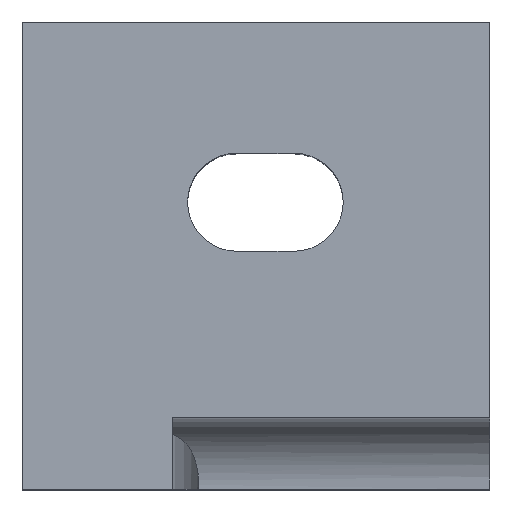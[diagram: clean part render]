
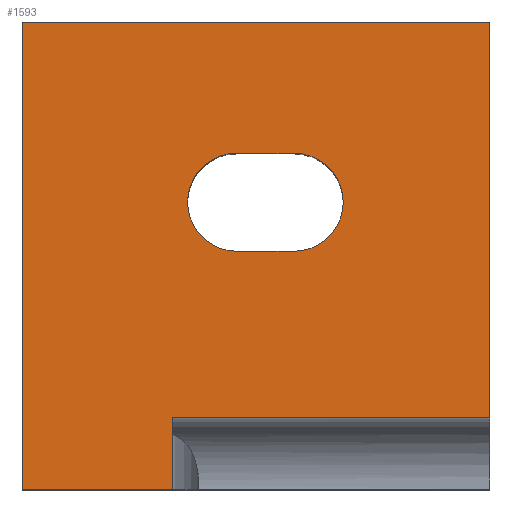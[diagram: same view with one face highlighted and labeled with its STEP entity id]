
A CAD part, top view. The second image highlights one B-rep face of the part: STEP entity #1593.
In plain terms, the highlighted planar face has unit normal (0, 0, 1).
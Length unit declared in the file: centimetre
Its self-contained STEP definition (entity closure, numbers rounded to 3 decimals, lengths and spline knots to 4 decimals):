
#11 = EDGE_CURVE ( 'NONE', #161, #498, #1489, .T. ) ;
#15 = VECTOR ( 'NONE', #1524, 100. ) ;
#60 = VERTEX_POINT ( 'NONE', #1479 ) ;
#66 = ORIENTED_EDGE ( 'NONE', *, *, #11, .T. ) ;
#99 = CARTESIAN_POINT ( 'NONE',  ( 1000., 1000., 1000. ) ) ;
#108 = LINE ( 'NONE', #1180, #878 ) ;
#109 = CARTESIAN_POINT ( 'NONE',  ( 1000., 1000., 1000. ) ) ;
#125 = LINE ( 'NONE', #109, #1510 ) ;
#143 = EDGE_CURVE ( 'NONE', #1541, #1535, #302, .T. ) ;
#152 = EDGE_CURVE ( 'NONE', #574, #161, #125, .T. ) ;
#161 = VERTEX_POINT ( 'NONE', #99 ) ;
#166 = ORIENTED_EDGE ( 'NONE', *, *, #332, .F. ) ;
#185 = ORIENTED_EDGE ( 'NONE', *, *, #1072, .T. ) ;
#190 = VERTEX_POINT ( 'NONE', #1202 ) ;
#263 = CARTESIAN_POINT ( 'NONE',  ( 458.4119, 719.2753, 1000. ) ) ;
#302 = CIRCLE ( 'NONE', #1424, 104.9442 ) ;
#314 = CARTESIAN_POINT ( 'NONE',  ( 0., 1000., 1000. ) ) ;
#315 = CARTESIAN_POINT ( 'NONE',  ( 0., 1000., 1000. ) ) ;
#321 = VERTEX_POINT ( 'NONE', #803 ) ;
#332 = EDGE_CURVE ( 'NONE', #574, #321, #795, .T. ) ;
#360 = ORIENTED_EDGE ( 'NONE', *, *, #388, .T. ) ;
#361 = ORIENTED_EDGE ( 'NONE', *, *, #152, .T. ) ;
#371 = ORIENTED_EDGE ( 'NONE', *, *, #434, .T. ) ;
#374 = DIRECTION ( 'NONE',  ( 1., 0., 0. ) ) ;
#384 = DIRECTION ( 'NONE',  ( 1., 0., 0. ) ) ;
#388 = EDGE_CURVE ( 'NONE', #190, #1328, #1390, .T. ) ;
#420 = DIRECTION ( 'NONE',  ( 0., 0., -1. ) ) ;
#434 = EDGE_CURVE ( 'NONE', #511, #321, #831, .T. ) ;
#452 = ORIENTED_EDGE ( 'NONE', *, *, #1204, .T. ) ;
#454 = CARTESIAN_POINT ( 'NONE',  ( 320.7887, 0., 1000. ) ) ;
#479 = DIRECTION ( 'NONE',  ( 0., -1., 0. ) ) ;
#498 = VERTEX_POINT ( 'NONE', #315 ) ;
#511 = VERTEX_POINT ( 'NONE', #454 ) ;
#513 = PLANE ( 'NONE',  #1190 ) ;
#514 = DIRECTION ( 'NONE',  ( -1., 0., 0. ) ) ;
#517 = CARTESIAN_POINT ( 'NONE',  ( 353.4677, 614.3312, 1000. ) ) ;
#566 = CARTESIAN_POINT ( 'NONE',  ( 1000., 152.9535, 1000. ) ) ;
#574 = VERTEX_POINT ( 'NONE', #566 ) ;
#582 = ORIENTED_EDGE ( 'NONE', *, *, #143, .T. ) ;
#610 = ORIENTED_EDGE ( 'NONE', *, *, #1294, .T. ) ;
#631 = CARTESIAN_POINT ( 'NONE',  ( 0., 0., 1000. ) ) ;
#640 = VECTOR ( 'NONE', #1069, 100. ) ;
#644 = DIRECTION ( 'NONE',  ( -1., 0., 0. ) ) ;
#728 = CIRCLE ( 'NONE', #1426, 104.9442 ) ;
#743 = ORIENTED_EDGE ( 'NONE', *, *, #1722, .T. ) ;
#789 = CARTESIAN_POINT ( 'NONE',  ( 0., 0., 1000. ) ) ;
#791 = CARTESIAN_POINT ( 'NONE',  ( 581.7049, 614.3312, 1000. ) ) ;
#795 = LINE ( 'NONE', #1226, #1565 ) ;
#803 = CARTESIAN_POINT ( 'NONE',  ( 320.7887, 152.9535, 1000. ) ) ;
#807 = DIRECTION ( 'NONE',  ( 0., 0., -1. ) ) ;
#831 = LINE ( 'NONE', #990, #15 ) ;
#878 = VECTOR ( 'NONE', #374, 100. ) ;
#917 = FACE_OUTER_BOUND ( 'NONE', #1553, .T. ) ;
#920 = DIRECTION ( 'NONE',  ( 1., 0., 0. ) ) ;
#945 = FACE_BOUND ( 'NONE', #1465, .T. ) ;
#990 = CARTESIAN_POINT ( 'NONE',  ( 320.7887, 0., 1000. ) ) ;
#1018 = VERTEX_POINT ( 'NONE', #263 ) ;
#1038 = EDGE_CURVE ( 'NONE', #1328, #1018, #728, .T. ) ;
#1058 = DIRECTION ( 'NONE',  ( 0., 0., 1. ) ) ;
#1060 = CARTESIAN_POINT ( 'NONE',  ( 458.4119, 509.387, 1000. ) ) ;
#1069 = DIRECTION ( 'NONE',  ( 1., 0., 0. ) ) ;
#1072 = EDGE_CURVE ( 'NONE', #60, #511, #1454, .T. ) ;
#1151 = LINE ( 'NONE', #314, #1740 ) ;
#1180 = CARTESIAN_POINT ( 'NONE',  ( 581.7049, 719.2753, 1000. ) ) ;
#1182 = LINE ( 'NONE', #1060, #1340 ) ;
#1190 = AXIS2_PLACEMENT_3D ( 'NONE', #789, #1058, #1610 ) ;
#1193 = CARTESIAN_POINT ( 'NONE',  ( 0., 1000., 1000. ) ) ;
#1202 = CARTESIAN_POINT ( 'NONE',  ( 458.4119, 509.387, 1000. ) ) ;
#1204 = EDGE_CURVE ( 'NONE', #1535, #190, #1182, .T. ) ;
#1226 = CARTESIAN_POINT ( 'NONE',  ( 320.7887, 152.9535, 1000. ) ) ;
#1243 = VECTOR ( 'NONE', #514, 100. ) ;
#1294 = EDGE_CURVE ( 'NONE', #498, #60, #1151, .T. ) ;
#1328 = VERTEX_POINT ( 'NONE', #517 ) ;
#1340 = VECTOR ( 'NONE', #644, 100. ) ;
#1348 = DIRECTION ( 'NONE',  ( 1., 0., 0. ) ) ;
#1368 = AXIS2_PLACEMENT_3D ( 'NONE', #1641, #420, #1348 ) ;
#1377 = DIRECTION ( 'NONE',  ( -1., 0., 0. ) ) ;
#1390 = CIRCLE ( 'NONE', #1368, 104.9442 ) ;
#1424 = AXIS2_PLACEMENT_3D ( 'NONE', #791, #807, #384 ) ;
#1426 = AXIS2_PLACEMENT_3D ( 'NONE', #1585, #1756, #920 ) ;
#1454 = LINE ( 'NONE', #631, #640 ) ;
#1465 = EDGE_LOOP ( 'NONE', ( #360, #1699, #743, #582, #452 ) ) ;
#1479 = CARTESIAN_POINT ( 'NONE',  ( 0., 0., 1000. ) ) ;
#1488 = CARTESIAN_POINT ( 'NONE',  ( 581.7049, 719.2753, 1000. ) ) ;
#1489 = LINE ( 'NONE', #1193, #1243 ) ;
#1510 = VECTOR ( 'NONE', #1734, 100. ) ;
#1524 = DIRECTION ( 'NONE',  ( 0., 1., 0. ) ) ;
#1535 = VERTEX_POINT ( 'NONE', #1733 ) ;
#1541 = VERTEX_POINT ( 'NONE', #1488 ) ;
#1553 = EDGE_LOOP ( 'NONE', ( #166, #361, #66, #610, #185, #371 ) ) ;
#1565 = VECTOR ( 'NONE', #1377, 100. ) ;
#1585 = CARTESIAN_POINT ( 'NONE',  ( 458.4119, 614.3312, 1000. ) ) ;
#1593 = ADVANCED_FACE ( 'NONE', ( #917, #945 ), #513, .T. ) ;
#1610 = DIRECTION ( 'NONE',  ( 1., 0., 0. ) ) ;
#1641 = CARTESIAN_POINT ( 'NONE',  ( 458.4119, 614.3312, 1000. ) ) ;
#1699 = ORIENTED_EDGE ( 'NONE', *, *, #1038, .T. ) ;
#1722 = EDGE_CURVE ( 'NONE', #1018, #1541, #108, .T. ) ;
#1733 = CARTESIAN_POINT ( 'NONE',  ( 581.7049, 509.387, 1000. ) ) ;
#1734 = DIRECTION ( 'NONE',  ( 0., 1., 0. ) ) ;
#1740 = VECTOR ( 'NONE', #479, 100. ) ;
#1756 = DIRECTION ( 'NONE',  ( 0., 0., -1. ) ) ;
